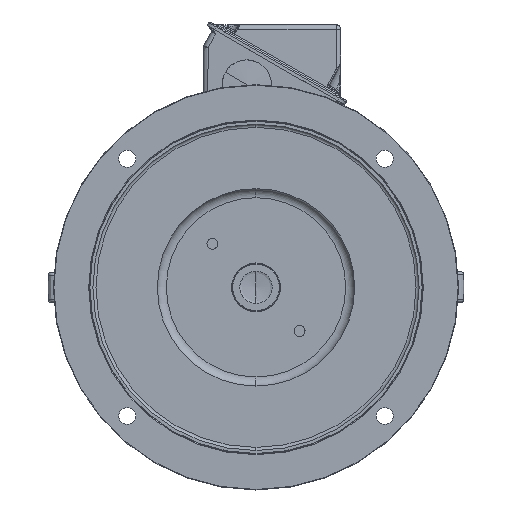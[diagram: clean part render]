
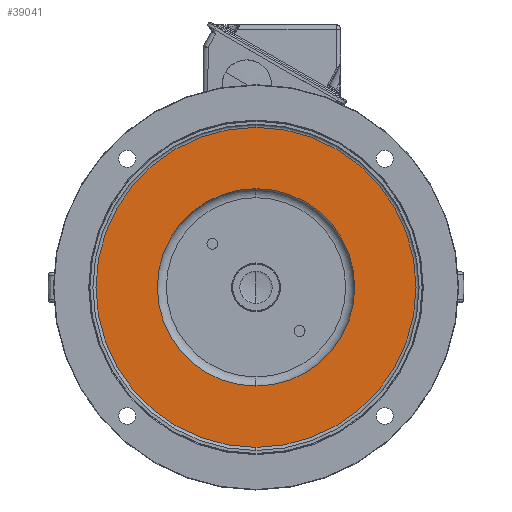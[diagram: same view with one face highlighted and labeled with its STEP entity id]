
A CAD part, front view. The second image highlights one B-rep face of the part: STEP entity #39041.
In plain terms, the highlighted planar face has unit normal (0, -1, 0) as drawn and (0, 0, -1) by its records, which use the part's own axes.
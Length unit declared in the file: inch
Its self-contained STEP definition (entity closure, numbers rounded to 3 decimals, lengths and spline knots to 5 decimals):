
#17682=CARTESIAN_POINT('',(0.,0.,-4.19));
#17683=DIRECTION('',(0.,0.,-1.));
#17684=DIRECTION('',(0.,1.,0.));
#17685=AXIS2_PLACEMENT_3D('',#17682,#17683,#17684);
#17687=CARTESIAN_POINT('',(0.,0.,-4.19));
#17688=DIRECTION('',(0.,0.,1.));
#17689=DIRECTION('',(0.,1.,0.));
#17690=AXIS2_PLACEMENT_3D('',#17687,#17688,#17689);
#17692=CARTESIAN_POINT('',(0.,0.,-4.19));
#17693=DIRECTION('',(0.,0.,1.));
#17694=DIRECTION('',(0.,1.,0.));
#17695=AXIS2_PLACEMENT_3D('',#17692,#17693,#17694);
#17707=CARTESIAN_POINT('',(0.,0.,-4.19));
#17708=DIRECTION('',(0.,0.,-1.));
#17709=DIRECTION('',(0.,1.,0.));
#17710=AXIS2_PLACEMENT_3D('',#17707,#17708,#17709);
#35259=CARTESIAN_POINT('',(0.,4.,-4.19));
#35261=VERTEX_POINT('',#35259);
#35263=CARTESIAN_POINT('',(0.,-4.,-4.19));
#35265=VERTEX_POINT('',#35263);
#36465=CARTESIAN_POINT('',(0.,6.48527,-4.19));
#36466=CARTESIAN_POINT('',(0.,-6.48527,-4.19));
#36467=VERTEX_POINT('',#36465);
#36468=VERTEX_POINT('',#36466);
#39026=CARTESIAN_POINT('',(0.,0.,-4.19));
#39027=DIRECTION('',(0.,0.,1.));
#39028=DIRECTION('',(0.,1.,0.));
#39029=AXIS2_PLACEMENT_3D('',#39026,#39027,#39028);
#39030=PLANE('',#39029);
#39031=ORIENTED_EDGE('',*,*,#39020,.F.);
#39032=ORIENTED_EDGE('',*,*,#39006,.T.);
#39033=EDGE_LOOP('',(#39031,#39032));
#39034=FACE_OUTER_BOUND('',#39033,.F.);
#39036=ORIENTED_EDGE('',*,*,#39035,.F.);
#39038=ORIENTED_EDGE('',*,*,#39037,.T.);
#39039=EDGE_LOOP('',(#39036,#39038));
#39040=FACE_BOUND('',#39039,.F.);
#39041=ADVANCED_FACE('',(#39034,#39040),#39030,.F.);
#17686=CIRCLE('',#17685,6.48527);
#17691=CIRCLE('',#17690,6.48527);
#17696=CIRCLE('',#17695,4.);
#17711=CIRCLE('',#17710,4.);
#39006=EDGE_CURVE('',#36467,#36468,#17691,.T.);
#39020=EDGE_CURVE('',#36467,#36468,#17686,.T.);
#39035=EDGE_CURVE('',#35261,#35265,#17696,.T.);
#39037=EDGE_CURVE('',#35261,#35265,#17711,.T.);
